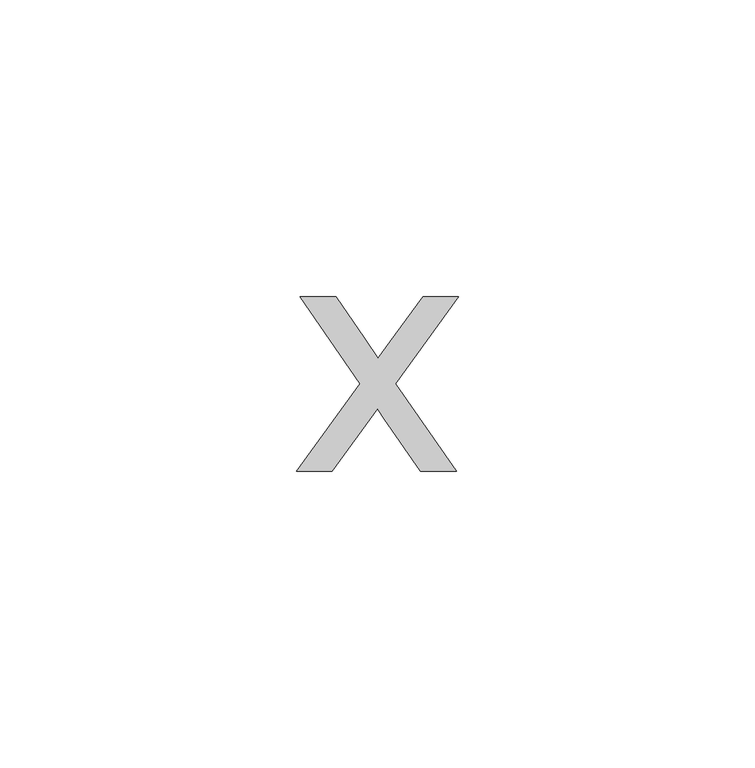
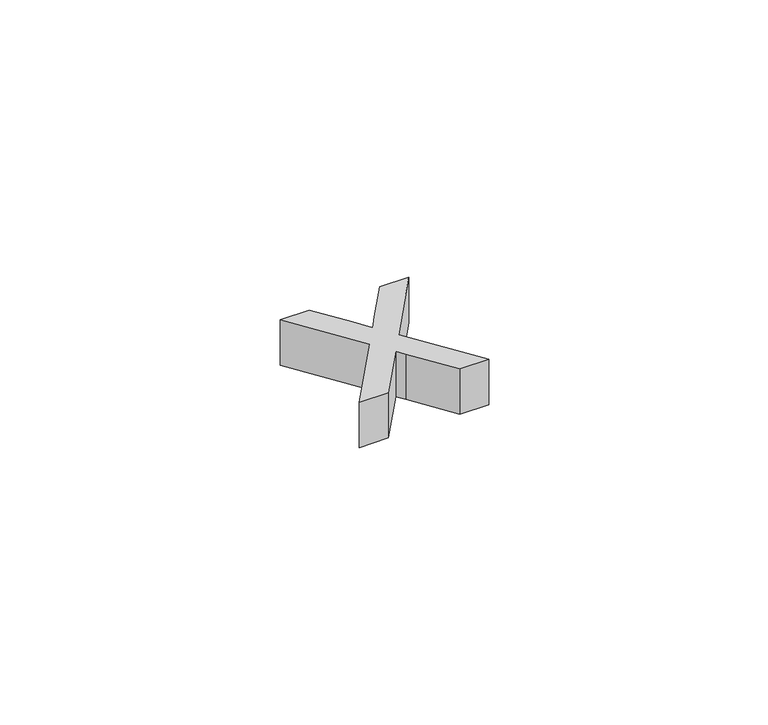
"""IFC4 building model written with IfcOpenShell, lengths in millimetres: pipe fitting geometry, NLRS_52_PIF_UN_HDPE weld_Akatherm : ringseal or non-welded."""

import ifcopenshell
import ifcopenshell.guid

model = None  # the IFC model being written
_history = None  # IfcOwnerHistory: only IFC2X3 demands one
_inside = {}  # id of a spatial element -> (the spatial element, [elements in it])
_under = {}  # id of a project, library or spatial element -> (it, [spatial elements below it])
_declared = {}  # id of a project -> (the project, [libraries it declares])
_typed = {}  # id of a type object -> (the type object, [elements of that type])
_made_of = {}  # id of a material, layer set ... -> (it, [elements and type objects made of it])


def new_model(schema):
    """Start an empty IFC model of exactly this schema.

    Asked for "IFC4X3", IfcOpenShell would pick the latest addendum, in which some entities
    have other attributes; the version numbers below select the first issue.
    IFC2X3 requires an IfcOwnerHistory on every rooted entity: one is made here for all.
    """
    global model, _history
    if schema == "IFC4X3":
        model = ifcopenshell.file(schema_version=(4, 3, 0, 0))
    else:
        model = ifcopenshell.file(schema=schema)
    _inside.clear()
    _under.clear()
    _declared.clear()
    _typed.clear()
    _made_of.clear()
    _history = None
    if model.schema == "IFC2X3":
        org = make("IfcOrganization", Name="unknown")
        user = make(
            "IfcPersonAndOrganization",
            ThePerson=make("IfcPerson", FamilyName="unknown"),
            TheOrganization=org,
        )
        app = make(
            "IfcApplication",
            ApplicationDeveloper=org,
            Version="unknown",
            ApplicationFullName="unknown",
            ApplicationIdentifier="unknown",
        )
        _history = make(
            "IfcOwnerHistory",
            OwningUser=user,
            OwningApplication=app,
            ChangeAction="ADDED",
            CreationDate=0,
        )
    return model


def make(cls, **values):
    """One entity of the class cls with the attributes given. An attribute that is None is left unset."""
    return model.create_entity(
        cls, **{name: value for name, value in values.items() if value is not None}
    )


def rooted(cls, **values):
    """An entity with a GlobalId (a new one), such as an element, a storey or a relation."""
    return make(cls, GlobalId=ifcopenshell.guid.new(), OwnerHistory=_history, **values)


def si_unit(unit_type, name, prefix=None):
    """IfcSIUnit, for example si_unit("LENGTHUNIT", "METRE", prefix="MILLI")."""
    return make("IfcSIUnit", UnitType=unit_type, Prefix=prefix, Name=name)


def assignment(units):
    """IfcUnitAssignment: the units of a project."""
    return None if units is None else make("IfcUnitAssignment", Units=units)


def point(xyz):
    """IfcCartesianPoint."""
    return None if xyz is None else make("IfcCartesianPoint", Coordinates=xyz)


def direction(xyz):
    """IfcDirection."""
    return None if xyz is None else make("IfcDirection", DirectionRatios=xyz)


def frame(location, z_axis=None, x_axis=None):
    """IfcAxis2Placement3D, a coordinate frame: its origin and axes. An axis left out is left unset."""
    return make(
        "IfcAxis2Placement3D",
        Location=point(location),
        Axis=direction(z_axis),
        RefDirection=direction(x_axis),
    )


def origin():
    """The frame at (0, 0, 0) with its axes left unset."""
    return frame((0.0, 0.0, 0.0))


def place(relative_to, where):
    """IfcLocalPlacement: puts the frame where relative to a parent placement (None: the world)."""
    return make(
        "IfcLocalPlacement", PlacementRelTo=relative_to, RelativePlacement=where
    )


def context(
    kind, dimensions, precision=None, world=None, true_north=None, identifier=None
):
    """IfcGeometricRepresentationContext, for example the 3D "Model" context."""
    return make(
        "IfcGeometricRepresentationContext",
        ContextIdentifier=identifier,
        ContextType=kind,
        CoordinateSpaceDimension=dimensions,
        Precision=precision,
        WorldCoordinateSystem=world,
        TrueNorth=true_north,
    )


def project(units=None, contexts=None):
    """IfcProject with its units and contexts."""
    return rooted(
        "IfcProject",
        Name="project",
        RepresentationContexts=contexts,
        UnitsInContext=assignment(units),
    )


def spatial(cls, under=None, at=None, **own):
    """A site, building, storey or space (cls), placed at a placement, below another one or the project."""
    s = rooted(cls, ObjectPlacement=at, **own)
    if under is not None:
        _under.setdefault(under.id(), (under, []))[1].append(s)
    return s


def polyline(points):
    """IfcPolyline through the points."""
    return make("IfcPolyline", Points=[point(p) for p in points])


def outline(outer, holes=None, kind="AREA"):
    """IfcArbitraryClosedProfileDef: a profile drawn as a closed curve; with holes, ...WithVoids."""
    if holes is None:
        return make("IfcArbitraryClosedProfileDef", ProfileType=kind, OuterCurve=outer)
    return make(
        "IfcArbitraryProfileDefWithVoids",
        ProfileType=kind,
        OuterCurve=outer,
        InnerCurves=holes,
    )


def extrude(swept, where, along, depth):
    """IfcExtrudedAreaSolid: the profile swept, set in the frame where, extruded along a direction by depth."""
    return make(
        "IfcExtrudedAreaSolid",
        SweptArea=swept,
        Position=where,
        ExtrudedDirection=direction(along),
        Depth=depth,
    )


def shape(context_of_items, identifier, shape_type, items):
    """IfcShapeRepresentation: the items that make up one representation, for example the "Body"."""
    return make(
        "IfcShapeRepresentation",
        ContextOfItems=context_of_items,
        RepresentationIdentifier=identifier,
        RepresentationType=shape_type,
        Items=items,
    )


def source(mapping_origin, context_of_items, identifier, shape_type, items):
    """IfcRepresentationMap: a shape defined once, which mapped items show again and again."""
    return make(
        "IfcRepresentationMap",
        MappingOrigin=mapping_origin,
        MappedRepresentation=shape(context_of_items, identifier, shape_type, items),
    )


def transform(
    local_origin,
    x_axis=None,
    y_axis=None,
    z_axis=None,
    scale=None,
    scale2=None,
    scale3=None,
    uniform=True,
):
    """IfcCartesianTransformationOperator3D, or its non-uniform kind. x_axis, y_axis, z_axis: its Axis1, 2, 3."""
    if uniform:
        return make(
            "IfcCartesianTransformationOperator3D",
            Axis1=direction(x_axis),
            Axis2=direction(y_axis),
            LocalOrigin=point(local_origin),
            Scale=scale,
            Axis3=direction(z_axis),
        )
    return make(
        "IfcCartesianTransformationOperator3DnonUniform",
        Axis1=direction(x_axis),
        Axis2=direction(y_axis),
        LocalOrigin=point(local_origin),
        Scale=scale,
        Axis3=direction(z_axis),
        Scale2=scale2,
        Scale3=scale3,
    )


def mapped(mapping_source, mapping_target):
    """IfcMappedItem: shows the shape of a source again, moved by a transform."""
    return make(
        "IfcMappedItem", MappingSource=mapping_source, MappingTarget=mapping_target
    )


def made_of(thing, what):
    """Note that an element or type object is made of a material, layer set ...; save() writes the relation."""
    if what is not None:
        _made_of.setdefault(what.id(), (what, []))[1].append(thing)
    return thing


def element(
    cls,
    number,
    at=None,
    inside=None,
    cuts=None,
    type_object=None,
    material=None,
    context=None,
    identifier="Body",
    shape_type=None,
    held_by="IfcProductDefinitionShape",
    body=None,
    shapes=None,
    **own,
):
    """One element of the class cls, such as IfcWall. Its Tag is "e" and its number.

    at: its placement. inside: the storey or other place that contains it. cuts: it is an
    opening in that element (IfcRelVoidsElement). A single representation is given by context,
    identifier, shape_type and body (its items); several are given by shapes. held_by: the class
    of the entity that holds the representations. save() writes the other relations.
    """
    e = rooted(cls, Tag="e%d" % number, ObjectPlacement=at, **own)
    if body is not None:
        shapes = [shape(context, identifier, shape_type, body)]
    if shapes is not None:
        e.Representation = make(held_by, Representations=shapes)
    if inside is not None:
        _inside.setdefault(inside.id(), (inside, []))[1].append(e)
    if cuts is not None:
        rooted(
            "IfcRelVoidsElement", RelatingBuildingElement=cuts, RelatedOpeningElement=e
        )
    if type_object is not None:
        _typed.setdefault(type_object.id(), (type_object, []))[1].append(e)
    return made_of(e, material)


def aggregate(whole, parts):
    """IfcRelAggregates: a whole, such as a stair, and the parts it consists of."""
    return rooted("IfcRelAggregates", RelatingObject=whole, RelatedObjects=parts)


def save(model, path):
    """Write the relations noted so far, then the file.

    IfcRelAggregates (storeys below a building ...), IfcRelContainedInSpatialStructure (elements
    in a storey), IfcRelDefinesByType, IfcRelAssociatesMaterial and IfcRelDeclares: one each for
    every whole, place, type object, material and project.
    """
    for whole, parts in _under.values():
        aggregate(whole, parts)
    for where, things in _inside.values():
        rooted(
            "IfcRelContainedInSpatialStructure",
            RelatedElements=things,
            RelatingStructure=where,
        )
    for kind, things in _typed.values():
        rooted("IfcRelDefinesByType", RelatedObjects=things, RelatingType=kind)
    for what, things in _made_of.values():
        rooted("IfcRelAssociatesMaterial", RelatedObjects=things, RelatingMaterial=what)
    for by, libraries in _declared.values():
        rooted("IfcRelDeclares", RelatingContext=by, RelatedDefinitions=libraries)
    model.write(path)


def pipe_fitting_32baf9d8(model_context):
    return source(origin(), model_context, "Body", "SweptSolid", [
        extrude(outline(polyline([(30.9355442, -165.0), (41.6678883, -150.166998), (31.5633962, -135.4909589), (37.6064711, -135.4909589), (42.4821338, -142.5542932), (44.7580971, -145.8897566), (46.7299446, -143.1625248), (52.2825102, -135.4909589), (58.3255851, -135.4909589), (47.7109632, -150.166998), (57.9331776, -165.0), (51.8901027, -165.0), (45.7391157, -156.0825404), (44.6109443, -154.4540495), (36.9786192, -165.0), (30.9355442, -165.0)])), frame((0.0, 0.0, -15.0), z_axis=(0.0, 0.0, 1.0), x_axis=(1.0, 0.0, 0.0)), (0.0, 0.0, 1.0), 10.0),
    ])


if __name__ == "__main__":
    model = new_model("IFC4")
    model_context = context("Model", 3, world=origin())
    ifc_project = project(units=[si_unit("LENGTHUNIT", "METRE", prefix="MILLI")], contexts=[model_context])
    site = spatial("IfcSite", under=ifc_project)
    building = spatial("IfcBuilding", under=site)
    placement = place(None, origin())
    pipe_fitting_shape = pipe_fitting_32baf9d8(model_context)
    element("IfcPipeFitting", 1, ObjectType="NLRS_52_PIF_UN_HDPE weld_Akatherm : ringseal or non-welded", at=placement, inside=building, context=model_context, shape_type="MappedRepresentation", body=[
        mapped(pipe_fitting_shape, transform((0.0, 0.0, 0.0), x_axis=(1.0, 0.0, 0.0), y_axis=(0.0, 1.0, 0.0), z_axis=(0.0, 0.0, 1.0))),
    ])
    save(model, "model.ifc")
